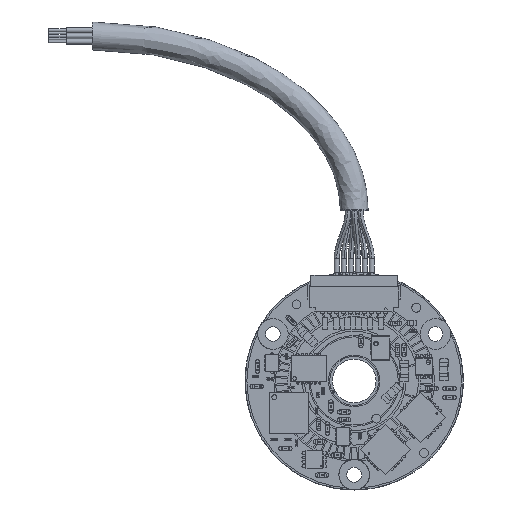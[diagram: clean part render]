
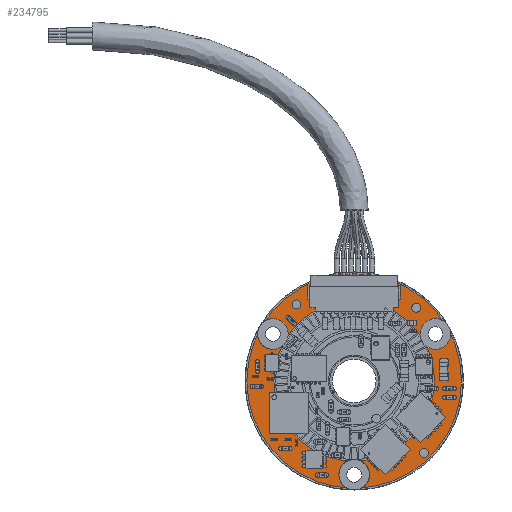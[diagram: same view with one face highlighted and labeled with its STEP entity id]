
A CAD part, front view. The second image highlights one B-rep face of the part: STEP entity #234795.
In plain terms, the highlighted planar face has unit normal (0, 1, 0).
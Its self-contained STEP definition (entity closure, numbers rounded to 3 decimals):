
#1304 = ORIENTED_EDGE ( 'NONE', *, *, #140468, .F. ) ;
#5169 = CIRCLE ( 'NONE', #150753, 0.85 ) ;
#12206 = CARTESIAN_POINT ( 'NONE',  ( 0., 2.17, -11.6 ) ) ;
#15024 = CARTESIAN_POINT ( 'NONE',  ( -9.31, 2.17, 5.375 ) ) ;
#16293 = EDGE_CURVE ( 'NONE', #127953, #136457, #326273, .T. ) ;
#18113 = CARTESIAN_POINT ( 'NONE',  ( 0., 2.17, -10.75 ) ) ;
#19378 = DIRECTION ( 'NONE',  ( 0., 0., 1. ) ) ;
#23108 = CARTESIAN_POINT ( 'NONE',  ( 0., 2.17, -9.2 ) ) ;
#24021 = EDGE_LOOP ( 'NONE', ( #101934, #266783 ) ) ;
#25144 = VERTEX_POINT ( 'NONE', #149605 ) ;
#25581 = DIRECTION ( 'NONE',  ( 0., 1., 0. ) ) ;
#26254 = CIRCLE ( 'NONE', #125156, 0.85 ) ;
#26668 = DIRECTION ( 'NONE',  ( 0., 0., 1. ) ) ;
#26935 = ORIENTED_EDGE ( 'NONE', *, *, #295370, .F. ) ;
#29446 = EDGE_LOOP ( 'NONE', ( #275072, #243429 ) ) ;
#30365 = AXIS2_PLACEMENT_3D ( 'NONE', #269225, #101436, #19378 ) ;
#43740 = AXIS2_PLACEMENT_3D ( 'NONE', #77271, #294406, #350924 ) ;
#57526 = CARTESIAN_POINT ( 'NONE',  ( 9.31, 2.17, 5.375 ) ) ;
#60952 = EDGE_CURVE ( 'NONE', #134931, #267954, #182969, .T. ) ;
#61622 = EDGE_CURVE ( 'NONE', #216571, #238804, #329342, .T. ) ;
#62031 = DIRECTION ( 'NONE',  ( 0., 1., 0. ) ) ;
#68813 = AXIS2_PLACEMENT_3D ( 'NONE', #57526, #303867, #302072 ) ;
#69397 = ORIENTED_EDGE ( 'NONE', *, *, #301234, .T. ) ;
#69785 = CARTESIAN_POINT ( 'NONE',  ( 0., 2.17, 12.3 ) ) ;
#77271 = CARTESIAN_POINT ( 'NONE',  ( 0., 2.17, -10.75 ) ) ;
#83990 = CARTESIAN_POINT ( 'NONE',  ( 0., 2.17, 0. ) ) ;
#90313 = CARTESIAN_POINT ( 'NONE',  ( 0., 2.17, 0. ) ) ;
#90789 = CARTESIAN_POINT ( 'NONE',  ( 9.31, 2.17, 6.225 ) ) ;
#101436 = DIRECTION ( 'NONE',  ( 0., 1., 0. ) ) ;
#101934 = ORIENTED_EDGE ( 'NONE', *, *, #16293, .F. ) ;
#105825 = ORIENTED_EDGE ( 'NONE', *, *, #60952, .F. ) ;
#107784 = VERTEX_POINT ( 'NONE', #132346 ) ;
#113041 = DIRECTION ( 'NONE',  ( 0., 0., 1. ) ) ;
#113104 = AXIS2_PLACEMENT_3D ( 'NONE', #274074, #297934, #159243 ) ;
#125156 = AXIS2_PLACEMENT_3D ( 'NONE', #18113, #291832, #351924 ) ;
#125567 = EDGE_CURVE ( 'NONE', #136457, #127953, #185994, .T. ) ;
#127953 = VERTEX_POINT ( 'NONE', #23108 ) ;
#132346 = CARTESIAN_POINT ( 'NONE',  ( 0., 2.17, -12.3 ) ) ;
#134008 = VERTEX_POINT ( 'NONE', #69785 ) ;
#134931 = VERTEX_POINT ( 'NONE', #257304 ) ;
#135177 = ORIENTED_EDGE ( 'NONE', *, *, #224188, .F. ) ;
#136457 = VERTEX_POINT ( 'NONE', #226629 ) ;
#140444 = FACE_OUTER_BOUND ( 'NONE', #280462, .T. ) ;
#140468 = EDGE_CURVE ( 'NONE', #233021, #25144, #249537, .T. ) ;
#149605 = CARTESIAN_POINT ( 'NONE',  ( -9.31, 2.17, 6.225 ) ) ;
#150046 = DIRECTION ( 'NONE',  ( 0., 0., 1. ) ) ;
#150123 = EDGE_LOOP ( 'NONE', ( #135177, #1304 ) ) ;
#150753 = AXIS2_PLACEMENT_3D ( 'NONE', #15024, #204823, #150046 ) ;
#154460 = EDGE_CURVE ( 'NONE', #238804, #216571, #26254, .T. ) ;
#159243 = DIRECTION ( 'NONE',  ( 0., 0., 1. ) ) ;
#166001 = FACE_BOUND ( 'NONE', #29446, .T. ) ;
#172350 = DIRECTION ( 'NONE',  ( 0., 1., 0. ) ) ;
#182969 = CIRCLE ( 'NONE', #113104, 0.85 ) ;
#185994 = CIRCLE ( 'NONE', #331586, 9.2 ) ;
#192055 = AXIS2_PLACEMENT_3D ( 'NONE', #304016, #300401, #26668 ) ;
#201099 = ORIENTED_EDGE ( 'NONE', *, *, #296328, .T. ) ;
#204823 = DIRECTION ( 'NONE',  ( 0., 1., 0. ) ) ;
#215150 = CARTESIAN_POINT ( 'NONE',  ( -9.31, 2.17, 5.375 ) ) ;
#216571 = VERTEX_POINT ( 'NONE', #12206 ) ;
#220468 = AXIS2_PLACEMENT_3D ( 'NONE', #215150, #326425, #302691 ) ;
#220783 = CARTESIAN_POINT ( 'NONE',  ( 0., 2.17, 0. ) ) ;
#224188 = EDGE_CURVE ( 'NONE', #25144, #233021, #5169, .T. ) ;
#224426 = FACE_BOUND ( 'NONE', #150123, .T. ) ;
#226027 = CIRCLE ( 'NONE', #68813, 0.85 ) ;
#226629 = CARTESIAN_POINT ( 'NONE',  ( 0., 2.17, 9.2 ) ) ;
#227125 = DIRECTION ( 'NONE',  ( 0., 0., 1. ) ) ;
#233021 = VERTEX_POINT ( 'NONE', #282203 ) ;
#234795 = ADVANCED_FACE ( 'NONE', ( #166001, #280913, #224426, #140444, #255346 ), #310216, .T. ) ;
#235860 = AXIS2_PLACEMENT_3D ( 'NONE', #83990, #62031, #113041 ) ;
#238804 = VERTEX_POINT ( 'NONE', #287501 ) ;
#243429 = ORIENTED_EDGE ( 'NONE', *, *, #61622, .F. ) ;
#249537 = CIRCLE ( 'NONE', #220468, 0.85 ) ;
#255346 = FACE_BOUND ( 'NONE', #24021, .T. ) ;
#257304 = CARTESIAN_POINT ( 'NONE',  ( 9.31, 2.17, 4.525 ) ) ;
#266783 = ORIENTED_EDGE ( 'NONE', *, *, #125567, .F. ) ;
#267954 = VERTEX_POINT ( 'NONE', #90789 ) ;
#269112 = CIRCLE ( 'NONE', #30365, 12.3 ) ;
#269225 = CARTESIAN_POINT ( 'NONE',  ( 0., 2.17, 0. ) ) ;
#274074 = CARTESIAN_POINT ( 'NONE',  ( 9.31, 2.17, 5.375 ) ) ;
#275072 = ORIENTED_EDGE ( 'NONE', *, *, #154460, .F. ) ;
#280462 = EDGE_LOOP ( 'NONE', ( #201099, #69397 ) ) ;
#280913 = FACE_BOUND ( 'NONE', #302016, .T. ) ;
#282203 = CARTESIAN_POINT ( 'NONE',  ( -9.31, 2.17, 4.525 ) ) ;
#287501 = CARTESIAN_POINT ( 'NONE',  ( 0., 2.17, -9.9 ) ) ;
#291417 = AXIS2_PLACEMENT_3D ( 'NONE', #90313, #172350, #227125 ) ;
#291832 = DIRECTION ( 'NONE',  ( 0., 1., 0. ) ) ;
#294406 = DIRECTION ( 'NONE',  ( 0., 1., 0. ) ) ;
#295370 = EDGE_CURVE ( 'NONE', #267954, #134931, #226027, .T. ) ;
#296328 = EDGE_CURVE ( 'NONE', #107784, #134008, #337684, .T. ) ;
#297934 = DIRECTION ( 'NONE',  ( 0., 1., 0. ) ) ;
#300401 = DIRECTION ( 'NONE',  ( 0., 1., 0. ) ) ;
#301234 = EDGE_CURVE ( 'NONE', #134008, #107784, #269112, .T. ) ;
#302016 = EDGE_LOOP ( 'NONE', ( #26935, #105825 ) ) ;
#302072 = DIRECTION ( 'NONE',  ( 0., 0., 1. ) ) ;
#302691 = DIRECTION ( 'NONE',  ( 0., 0., 1. ) ) ;
#303867 = DIRECTION ( 'NONE',  ( 0., 1., 0. ) ) ;
#304016 = CARTESIAN_POINT ( 'NONE',  ( 0., 2.17, 0. ) ) ;
#310216 = PLANE ( 'NONE',  #235860 ) ;
#326273 = CIRCLE ( 'NONE', #291417, 9.2 ) ;
#326425 = DIRECTION ( 'NONE',  ( 0., 1., 0. ) ) ;
#329342 = CIRCLE ( 'NONE', #43740, 0.85 ) ;
#331586 = AXIS2_PLACEMENT_3D ( 'NONE', #220783, #25581, #352235 ) ;
#337684 = CIRCLE ( 'NONE', #192055, 12.3 ) ;
#350924 = DIRECTION ( 'NONE',  ( 0., 0., 1. ) ) ;
#351924 = DIRECTION ( 'NONE',  ( 0., 0., 1. ) ) ;
#352235 = DIRECTION ( 'NONE',  ( 0., 0., 1. ) ) ;
